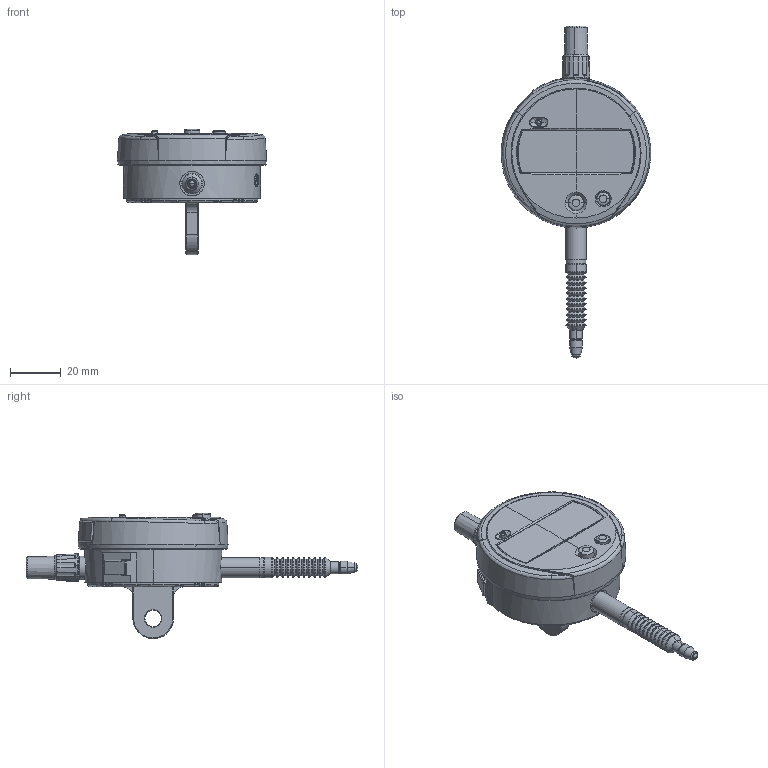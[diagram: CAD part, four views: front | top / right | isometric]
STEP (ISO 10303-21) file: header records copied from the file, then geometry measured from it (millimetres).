
FILE_DESCRIPTION(('Creo Elements/Direct Modeling STEP Export'),'2;1');
FILE_NAME('543-794_ID-S112PX.stp','2020-04-13T18:21:52',(''),(''),'Creo Elements/Direct Modeling STEP processor for AP214 (Solid Model)','Creo Elements/Direct Modeling 18.1I 13-Aug-2016 (C) Parametric Technology GmbH','');
FILE_SCHEMA(('AUTOMOTIVE_DESIGN { 1 0 10303 214 1 1 1 1 }'));
Length unit declared in the file: millimetre
Products named in the file (1): Top
Bounding box: 58.84 x 130.8 x 49.4 mm (x, y, z)
Volume: 72241.4 mm3; surface area: 14058.5 mm2
Topology: 1 solids, 1 shells, 679 faces, 1710 edges, 1036 vertices
Faces by surface type: plane 187, cylinder 147, bspline 123, torus 111, cone 101, sphere 6, revolution 4
Entity records: 38001 total; most frequent: CARTESIAN_POINT 23388, ORIENTED_EDGE 3380, DIRECTION 2550, EDGE_CURVE 1690, VERTEX_POINT 1036, AXIS2_PLACEMENT_3D 980, EDGE_LOOP 706, FACE_OUTER_BOUND 679
